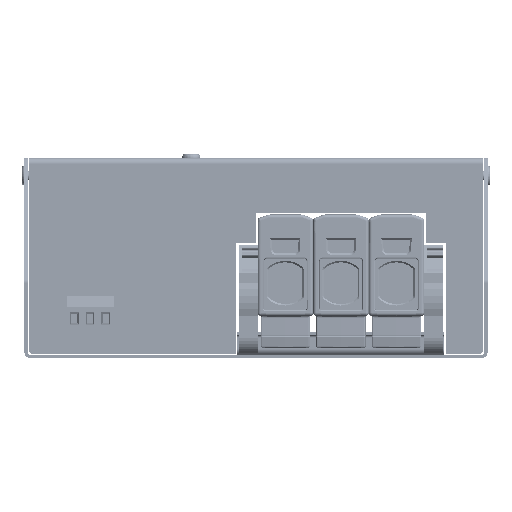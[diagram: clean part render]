
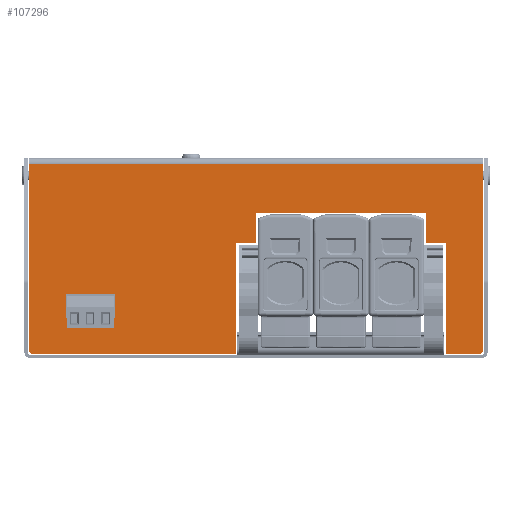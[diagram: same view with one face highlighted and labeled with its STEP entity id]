
A CAD part, left-side view. The second image highlights one B-rep face of the part: STEP entity #107296.
In plain terms, the highlighted planar face has unit normal (-1, 0, 0).
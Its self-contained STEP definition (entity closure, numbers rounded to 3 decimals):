
#4483=FACE_BOUND('',#16704,.T.);
#4854=PLANE('',#114154);
#9482=FACE_OUTER_BOUND('',#16703,.T.);
#16703=EDGE_LOOP('',(#77257,#77258,#77259,#77260,#77261,#77262,#77263,#77264,
#77265,#77266,#77267,#77268,#77269,#77270));
#16704=EDGE_LOOP('',(#77271,#77272,#77273,#77274));
#22327=LINE('',#151077,#34740);
#22330=LINE('',#151083,#34743);
#22333=LINE('',#151089,#34746);
#22336=LINE('',#151093,#34749);
#22516=LINE('',#152154,#34929);
#22530=LINE('',#152187,#34943);
#22533=LINE('',#152193,#34946);
#22536=LINE('',#152198,#34949);
#22538=LINE('',#152203,#34951);
#22541=LINE('',#152208,#34954);
#22542=LINE('',#152210,#34955);
#22557=LINE('',#152240,#34970);
#22558=LINE('',#152242,#34971);
#22560=LINE('',#152246,#34973);
#22561=LINE('',#152248,#34974);
#22568=LINE('',#152269,#34981);
#34740=VECTOR('',#122824,15.9);
#34743=VECTOR('',#122829,7.6);
#34746=VECTOR('',#122834,15.9);
#34749=VECTOR('',#122839,7.6);
#34929=VECTOR('',#123997,60.5);
#34943=VECTOR('',#124021,60.5);
#34946=VECTOR('',#124026,9.5);
#34949=VECTOR('',#124031,6.5);
#34951=VECTOR('',#124035,6.5);
#34954=VECTOR('',#124040,9.5);
#34955=VECTOR('',#124043,55.);
#34970=VECTOR('',#124074,36.);
#34971=VECTOR('',#124077,11.);
#34973=VECTOR('',#124081,66.);
#34974=VECTOR('',#124084,36.);
#34981=VECTOR('',#124115,147.);
#48004=CIRCLE('',#114113,1.);
#48006=CIRCLE('',#114118,1.);
#49867=VERTEX_POINT('',#151074);
#49868=VERTEX_POINT('',#151076);
#49870=VERTEX_POINT('',#151082);
#49872=VERTEX_POINT('',#151088);
#50261=VERTEX_POINT('',#152144);
#50262=VERTEX_POINT('',#152146);
#50264=VERTEX_POINT('',#152152);
#50276=VERTEX_POINT('',#152180);
#50277=VERTEX_POINT('',#152182);
#50278=VERTEX_POINT('',#152186);
#50279=VERTEX_POINT('',#152190);
#50280=VERTEX_POINT('',#152192);
#50281=VERTEX_POINT('',#152196);
#50282=VERTEX_POINT('',#152200);
#50283=VERTEX_POINT('',#152202);
#50284=VERTEX_POINT('',#152206);
#50291=VERTEX_POINT('',#152238);
#50292=VERTEX_POINT('',#152244);
#60102=EDGE_CURVE('',#49868,#49867,#22327,.T.);
#60105=EDGE_CURVE('',#49870,#49868,#22330,.T.);
#60108=EDGE_CURVE('',#49872,#49870,#22333,.T.);
#60111=EDGE_CURVE('',#49867,#49872,#22336,.T.);
#60571=EDGE_CURVE('',#50261,#50262,#48004,.T.);
#60575=EDGE_CURVE('',#50264,#50261,#22516,.T.);
#60589=EDGE_CURVE('',#50276,#50277,#48006,.T.);
#60591=EDGE_CURVE('',#50277,#50278,#22530,.T.);
#60594=EDGE_CURVE('',#50280,#50279,#22533,.T.);
#60597=EDGE_CURVE('',#50279,#50281,#22536,.T.);
#60599=EDGE_CURVE('',#50283,#50282,#22538,.T.);
#60602=EDGE_CURVE('',#50282,#50284,#22541,.T.);
#60603=EDGE_CURVE('',#50280,#50284,#22542,.T.);
#60618=EDGE_CURVE('',#50281,#50291,#22557,.T.);
#60619=EDGE_CURVE('',#50291,#50262,#22558,.T.);
#60621=EDGE_CURVE('',#50276,#50292,#22560,.T.);
#60622=EDGE_CURVE('',#50292,#50283,#22561,.T.);
#60633=EDGE_CURVE('',#50264,#50278,#22568,.T.);
#77257=ORIENTED_EDGE('',*,*,#60571,.F.);
#77258=ORIENTED_EDGE('',*,*,#60575,.F.);
#77259=ORIENTED_EDGE('',*,*,#60633,.T.);
#77260=ORIENTED_EDGE('',*,*,#60591,.F.);
#77261=ORIENTED_EDGE('',*,*,#60589,.F.);
#77262=ORIENTED_EDGE('',*,*,#60621,.T.);
#77263=ORIENTED_EDGE('',*,*,#60622,.T.);
#77264=ORIENTED_EDGE('',*,*,#60599,.T.);
#77265=ORIENTED_EDGE('',*,*,#60602,.T.);
#77266=ORIENTED_EDGE('',*,*,#60603,.F.);
#77267=ORIENTED_EDGE('',*,*,#60594,.T.);
#77268=ORIENTED_EDGE('',*,*,#60597,.T.);
#77269=ORIENTED_EDGE('',*,*,#60618,.T.);
#77270=ORIENTED_EDGE('',*,*,#60619,.T.);
#77271=ORIENTED_EDGE('',*,*,#60102,.T.);
#77272=ORIENTED_EDGE('',*,*,#60111,.T.);
#77273=ORIENTED_EDGE('',*,*,#60108,.T.);
#77274=ORIENTED_EDGE('',*,*,#60105,.T.);
#107296=ADVANCED_FACE('',(#9482,#4483),#4854,.T.);
#114113=AXIS2_PLACEMENT_3D('',#152147,#123990,#123991);
#114118=AXIS2_PLACEMENT_3D('',#152183,#124016,#124017);
#114154=AXIS2_PLACEMENT_3D('',#152276,#124128,#124129);
#122824=DIRECTION('',(0.,-1.,0.));
#122829=DIRECTION('',(0.,0.,1.));
#122834=DIRECTION('',(0.,1.,0.));
#122839=DIRECTION('',(0.,0.,-1.));
#123990=DIRECTION('center_axis',(1.,0.,0.));
#123991=DIRECTION('ref_axis',(0.,-0.707,-0.707));
#123997=DIRECTION('',(0.,0.,-1.));
#124016=DIRECTION('center_axis',(1.,0.,0.));
#124017=DIRECTION('ref_axis',(0.,0.707,-0.707));
#124021=DIRECTION('',(0.,0.,1.));
#124026=DIRECTION('',(0.,0.,-1.));
#124031=DIRECTION('',(0.,-1.,0.));
#124035=DIRECTION('',(0.,-1.,0.));
#124040=DIRECTION('',(0.,0.,1.));
#124043=DIRECTION('',(0.,1.,0.));
#124074=DIRECTION('',(0.,0.,-1.));
#124077=DIRECTION('',(0.,-1.,0.));
#124081=DIRECTION('',(0.,-1.,0.));
#124084=DIRECTION('',(0.,0.,1.));
#124115=DIRECTION('',(0.,1.,0.));
#124128=DIRECTION('center_axis',(-1.,0.,0.));
#124129=DIRECTION('ref_axis',(0.,0.,
1.));
#151074=CARTESIAN_POINT('',(-98.,45.8,-43.3));
#151076=CARTESIAN_POINT('',(-98.,61.7,-43.3));
#151077=CARTESIAN_POINT('',(-98.,30.85,-43.3));
#151082=CARTESIAN_POINT('',(-98.,61.7,-50.9));
#151083=CARTESIAN_POINT('',(-98.,61.7,-29.385));
#151088=CARTESIAN_POINT('',(-98.,45.8,-50.9));
#151089=CARTESIAN_POINT('',(-98.,22.9,-50.9));
#151093=CARTESIAN_POINT('',(-98.,45.8,-25.585));
#152144=CARTESIAN_POINT('',(-98.,-73.5,-61.5));
#152146=CARTESIAN_POINT('',(-98.,-72.5,-62.5));
#152147=CARTESIAN_POINT('Origin',(-98.,-72.5,-61.5));
#152152=CARTESIAN_POINT('',(-98.,-73.5,-1.));
#152154=CARTESIAN_POINT('',(-98.,-73.5,-1.));
#152180=CARTESIAN_POINT('',(-98.,72.5,-62.5));
#152182=CARTESIAN_POINT('',(-98.,73.5,-61.5));
#152183=CARTESIAN_POINT('Origin',(-98.,72.5,-61.5));
#152186=CARTESIAN_POINT('',(-98.,73.5,-1.));
#152187=CARTESIAN_POINT('',(-98.,73.5,3.524));
#152190=CARTESIAN_POINT('',(-98.,-55.,-26.5));
#152192=CARTESIAN_POINT('',(-98.,-55.,-17.));
#152193=CARTESIAN_POINT('',(-98.,-55.,-17.));
#152196=CARTESIAN_POINT('',(-98.,-61.5,-26.5));
#152198=CARTESIAN_POINT('',(-98.,-55.,-26.5));
#152200=CARTESIAN_POINT('',(-98.,0.,-26.5));
#152202=CARTESIAN_POINT('',(-98.,6.5,-26.5));
#152203=CARTESIAN_POINT('',(-98.,6.5,-26.5));
#152206=CARTESIAN_POINT('',(-98.,0.,-17.));
#152208=CARTESIAN_POINT('',(-98.,0.,-26.5));
#152210=CARTESIAN_POINT('',(-98.,-73.5,-17.));
#152238=CARTESIAN_POINT('',(-98.,-61.5,-62.5));
#152240=CARTESIAN_POINT('',(-98.,-61.5,-17.));
#152242=CARTESIAN_POINT('',(-98.,-61.5,-62.5));
#152244=CARTESIAN_POINT('',(-98.,6.5,-62.5));
#152246=CARTESIAN_POINT('',(-98.,73.5,-62.5));
#152248=CARTESIAN_POINT('',(-98.,6.5,-62.5));
#152269=CARTESIAN_POINT('',(-98.,0.,-1.));
#152276=CARTESIAN_POINT('Origin',(-98.,0.,-7.869));
